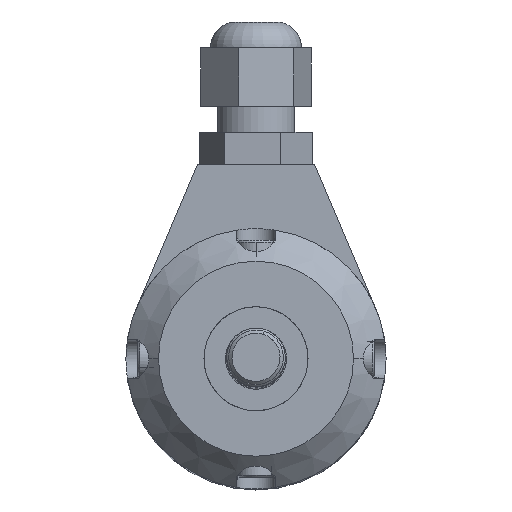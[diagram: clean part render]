
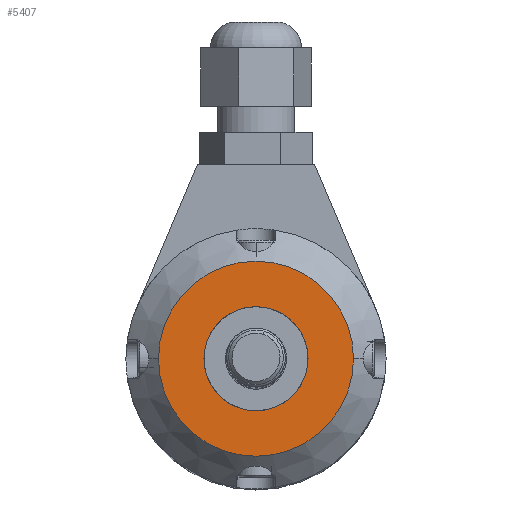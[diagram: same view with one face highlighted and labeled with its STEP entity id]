
A CAD part, top view. The second image highlights one B-rep face of the part: STEP entity #5407.
In plain terms, the highlighted planar face has unit normal (0, 0, 1) as drawn and (-1, 0, 0) by its records, which use the part's own axes.
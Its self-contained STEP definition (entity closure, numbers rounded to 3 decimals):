
#114 = FACE_OUTER_BOUND ( 'NONE', #14517, .T. ) ;
#168 = DIRECTION ( 'NONE',  ( 0., 0., -1. ) ) ;
#359 = CARTESIAN_POINT ( 'NONE',  ( 0., 0., 0. ) ) ;
#538 = EDGE_CURVE ( 'NONE', #5501, #13329, #8707, .T. ) ;
#1714 = DIRECTION ( 'NONE',  ( 0., 0., -1. ) ) ;
#2333 = CARTESIAN_POINT ( 'NONE',  ( 0., 0., 0. ) ) ;
#2727 = AXIS2_PLACEMENT_3D ( 'NONE', #359, #9903, #1714 ) ;
#2857 = FACE_BOUND ( 'NONE', #7342, .T. ) ;
#3083 = CIRCLE ( 'NONE', #6818, 8. ) ;
#3500 = DIRECTION ( 'NONE',  ( 0., 0., -1. ) ) ;
#3693 = EDGE_CURVE ( 'NONE', #4075, #10576, #3083, .T. ) ;
#4075 = VERTEX_POINT ( 'NONE', #7294 ) ;
#4197 = DIRECTION ( 'NONE',  ( 1., 0., 0. ) ) ;
#4466 = DIRECTION ( 'NONE',  ( 0., 0., 1. ) ) ;
#4535 = DIRECTION ( 'NONE',  ( -1., 0., 0. ) ) ;
#4794 = CIRCLE ( 'NONE', #16974, 8. ) ;
#5407 = ADVANCED_FACE ( 'NONE', ( #114, #2857 ), #15201, .F. ) ;
#5501 = VERTEX_POINT ( 'NONE', #7275 ) ;
#5760 = CARTESIAN_POINT ( 'NONE',  ( 0., 0., 0. ) ) ;
#6580 = EDGE_CURVE ( 'NONE', #13329, #5501, #11822, .T. ) ;
#6818 = AXIS2_PLACEMENT_3D ( 'NONE', #8422, #10954, #4466 ) ;
#6958 = ORIENTED_EDGE ( 'NONE', *, *, #538, .T. ) ;
#7164 = DIRECTION ( 'NONE',  ( 0., 0., 1. ) ) ;
#7275 = CARTESIAN_POINT ( 'NONE',  ( 0., 0., 15. ) ) ;
#7294 = CARTESIAN_POINT ( 'NONE',  ( 0., 0., -8. ) ) ;
#7342 = EDGE_LOOP ( 'NONE', ( #14848, #17170 ) ) ;
#8422 = CARTESIAN_POINT ( 'NONE',  ( 0., 0., 0. ) ) ;
#8707 = CIRCLE ( 'NONE', #8736, 15. ) ;
#8736 = AXIS2_PLACEMENT_3D ( 'NONE', #2333, #4535, #3500 ) ;
#9903 = DIRECTION ( 'NONE',  ( -1., 0., 0. ) ) ;
#10576 = VERTEX_POINT ( 'NONE', #16201 ) ;
#10954 = DIRECTION ( 'NONE',  ( -1., 0., 0. ) ) ;
#11822 = CIRCLE ( 'NONE', #2727, 15. ) ;
#13329 = VERTEX_POINT ( 'NONE', #16387 ) ;
#13634 = ORIENTED_EDGE ( 'NONE', *, *, #6580, .T. ) ;
#14517 = EDGE_LOOP ( 'NONE', ( #13634, #6958 ) ) ;
#14848 = ORIENTED_EDGE ( 'NONE', *, *, #15138, .F. ) ;
#15138 = EDGE_CURVE ( 'NONE', #10576, #4075, #4794, .T. ) ;
#15201 = PLANE ( 'NONE',  #16135 ) ;
#15396 = DIRECTION ( 'NONE',  ( -1., 0., 0. ) ) ;
#16135 = AXIS2_PLACEMENT_3D ( 'NONE', #16546, #4197, #168 ) ;
#16201 = CARTESIAN_POINT ( 'NONE',  ( 0., 0., 8. ) ) ;
#16387 = CARTESIAN_POINT ( 'NONE',  ( 0., 0., -15. ) ) ;
#16546 = CARTESIAN_POINT ( 'NONE',  ( 0., 20., 0. ) ) ;
#16974 = AXIS2_PLACEMENT_3D ( 'NONE', #5760, #15396, #7164 ) ;
#17170 = ORIENTED_EDGE ( 'NONE', *, *, #3693, .F. ) ;
